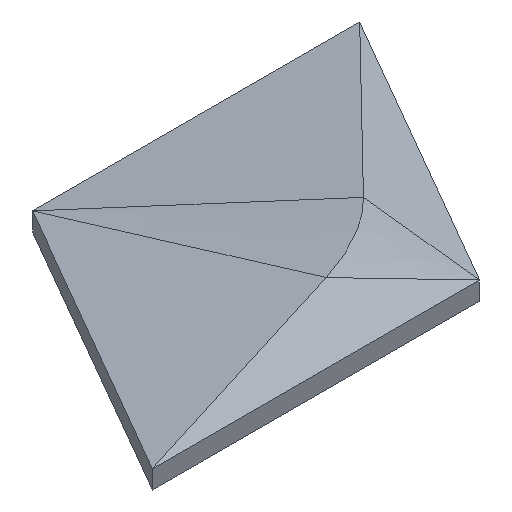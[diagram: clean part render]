
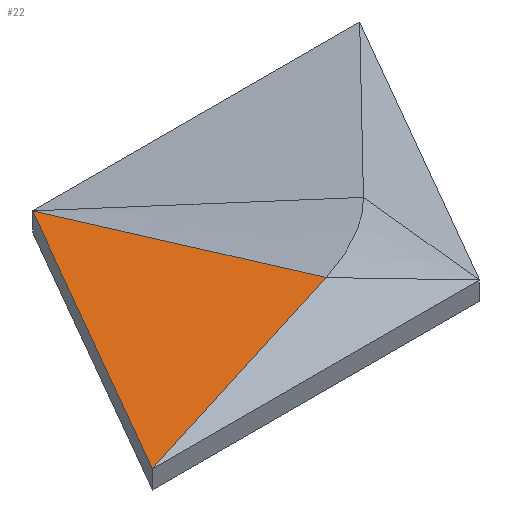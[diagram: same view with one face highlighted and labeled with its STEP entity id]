
A CAD part, isometric view. The second image highlights one B-rep face of the part: STEP entity #22.
In plain terms, the highlighted free-form (B-spline) face has degree [1, 1] with [2, 2] control points.
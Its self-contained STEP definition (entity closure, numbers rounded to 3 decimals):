
#22=ADVANCED_FACE('',(#33),#137,.T.);
#33=FACE_OUTER_BOUND('',#44,.T.);
#44=EDGE_LOOP('',(#74,#75,#76));
#74=ORIENTED_EDGE('',*,*,#104,.F.);
#75=ORIENTED_EDGE('',*,*,#94,.T.);
#76=ORIENTED_EDGE('',*,*,#101,.F.);
#94=EDGE_CURVE('',#130,#124,#116,.T.);
#101=EDGE_CURVE('',#133,#124,#121,.T.);
#104=EDGE_CURVE('',#130,#133,#107,.T.);
#107=(
BOUNDED_CURVE()
B_SPLINE_CURVE(1,(#261,#262),.UNSPECIFIED.,.F.,.F.)
B_SPLINE_CURVE_WITH_KNOTS((2,2),(-179.54,0.),.UNSPECIFIED.)
CURVE()
GEOMETRIC_REPRESENTATION_ITEM()
RATIONAL_B_SPLINE_CURVE((1.,1.))
REPRESENTATION_ITEM('')
);
#116=B_SPLINE_CURVE_WITH_KNOTS('',1,(#240,#241),.UNSPECIFIED.,.F.,.F.,(2,
2),(750.,1000.),.UNSPECIFIED.);
#121=B_SPLINE_CURVE_WITH_KNOTS('',1,(#255,#256),.UNSPECIFIED.,.F.,.F.,(2,
2),(-185.024,0.),.UNSPECIFIED.);
#124=VERTEX_POINT('',#214);
#130=VERTEX_POINT('',#220);
#133=VERTEX_POINT('',#223);
#137=B_SPLINE_SURFACE_WITH_KNOTS('',1,1,((#196,#197),(#198,#199)),
 .UNSPECIFIED.,.F.,.F.,.F.,(2,2),(2,2),(-185.024,0.),(750.,
1000.),.UNSPECIFIED.);
#196=CARTESIAN_POINT('',(178.694,45.786,28.355));
#197=CARTESIAN_POINT('',(178.694,45.786,28.355));
#198=CARTESIAN_POINT('',(125.,216.506,14.));
#199=CARTESIAN_POINT('',(0.,0.,14.));
#214=CARTESIAN_POINT('',(0.,0.,14.));
#220=CARTESIAN_POINT('',(125.,216.506,14.));
#223=CARTESIAN_POINT('',(178.694,45.786,28.355));
#240=CARTESIAN_POINT('',(125.,216.506,14.));
#241=CARTESIAN_POINT('',(0.,0.,14.));
#255=CARTESIAN_POINT('',(178.694,45.786,28.355));
#256=CARTESIAN_POINT('',(0.,0.,14.));
#261=CARTESIAN_POINT('',(125.,216.506,14.));
#262=CARTESIAN_POINT('',(178.694,45.786,28.355));
